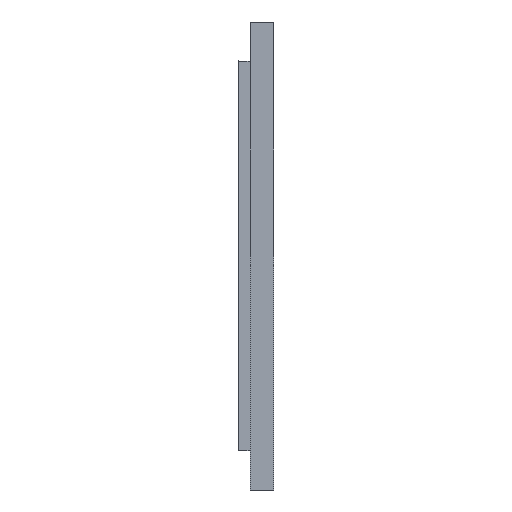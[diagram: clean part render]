
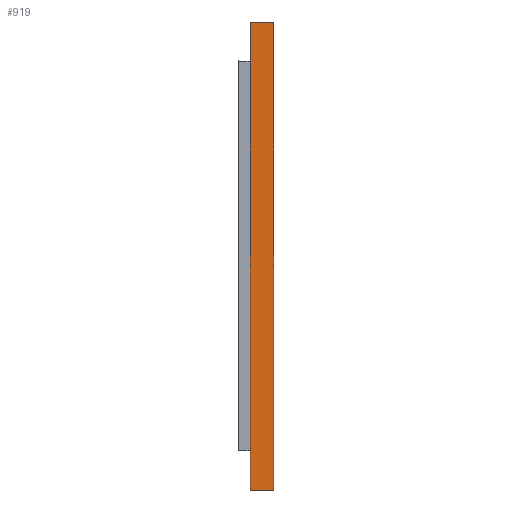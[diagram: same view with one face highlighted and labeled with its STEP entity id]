
A CAD part, left-side view. The second image highlights one B-rep face of the part: STEP entity #919.
In plain terms, the highlighted planar face has unit normal (-1, 0, 0).
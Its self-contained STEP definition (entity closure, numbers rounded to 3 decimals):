
#42 = VECTOR ( 'NONE', #3117, 1000. ) ;
#188 = FACE_OUTER_BOUND ( 'NONE', #3288, .T. ) ;
#211 = DIRECTION ( 'NONE',  ( 1., 0., 0. ) ) ;
#415 = VERTEX_POINT ( 'NONE', #3735 ) ;
#496 = CARTESIAN_POINT ( 'NONE',  ( 159.833, 261.697, 299.139 ) ) ;
#558 = LINE ( 'NONE', #1895, #42 ) ;
#879 = ORIENTED_EDGE ( 'NONE', *, *, #2786, .F. ) ;
#919 = ADVANCED_FACE ( 'NONE', ( #188 ), #1075, .F. ) ;
#934 = ORIENTED_EDGE ( 'NONE', *, *, #1826, .T. ) ;
#1051 = EDGE_CURVE ( 'NONE', #415, #3348, #3282, .T. ) ;
#1075 = PLANE ( 'NONE',  #3496 ) ;
#1122 = DIRECTION ( 'NONE',  ( 0., 0., 1. ) ) ;
#1164 = CARTESIAN_POINT ( 'NONE',  ( 159.833, 261.697, 299.139 ) ) ;
#1211 = VECTOR ( 'NONE', #2614, 1000. ) ;
#1509 = CARTESIAN_POINT ( 'NONE',  ( 159.833, 252.697, 299.139 ) ) ;
#1708 = VERTEX_POINT ( 'NONE', #2483 ) ;
#1826 = EDGE_CURVE ( 'NONE', #415, #1708, #2592, .T. ) ;
#1895 = CARTESIAN_POINT ( 'NONE',  ( 159.833, 261.697, 299.139 ) ) ;
#1970 = ORIENTED_EDGE ( 'NONE', *, *, #3780, .T. ) ;
#2031 = ORIENTED_EDGE ( 'NONE', *, *, #1051, .F. ) ;
#2089 = CARTESIAN_POINT ( 'NONE',  ( 159.833, 252.697, 299.139 ) ) ;
#2146 = DIRECTION ( 'NONE',  ( 0., 0., 1. ) ) ;
#2321 = CARTESIAN_POINT ( 'NONE',  ( 159.833, 261.697, 119.139 ) ) ;
#2399 = VERTEX_POINT ( 'NONE', #1509 ) ;
#2483 = CARTESIAN_POINT ( 'NONE',  ( 159.833, 252.697, 119.139 ) ) ;
#2580 = CARTESIAN_POINT ( 'NONE',  ( 159.833, 261.697, 299.139 ) ) ;
#2592 = LINE ( 'NONE', #2321, #1211 ) ;
#2614 = DIRECTION ( 'NONE',  ( 0., -1., 0. ) ) ;
#2759 = VECTOR ( 'NONE', #1122, 1000. ) ;
#2786 = EDGE_CURVE ( 'NONE', #3348, #2399, #558, .T. ) ;
#2970 = DIRECTION ( 'NONE',  ( 0., 0., -1. ) ) ;
#2993 = LINE ( 'NONE', #2089, #3230 ) ;
#3117 = DIRECTION ( 'NONE',  ( 0., -1., 0. ) ) ;
#3230 = VECTOR ( 'NONE', #2146, 1000. ) ;
#3282 = LINE ( 'NONE', #496, #2759 ) ;
#3288 = EDGE_LOOP ( 'NONE', ( #1970, #879, #2031, #934 ) ) ;
#3348 = VERTEX_POINT ( 'NONE', #2580 ) ;
#3496 = AXIS2_PLACEMENT_3D ( 'NONE', #1164, #211, #2970 ) ;
#3735 = CARTESIAN_POINT ( 'NONE',  ( 159.833, 261.697, 119.139 ) ) ;
#3780 = EDGE_CURVE ( 'NONE', #1708, #2399, #2993, .T. ) ;
